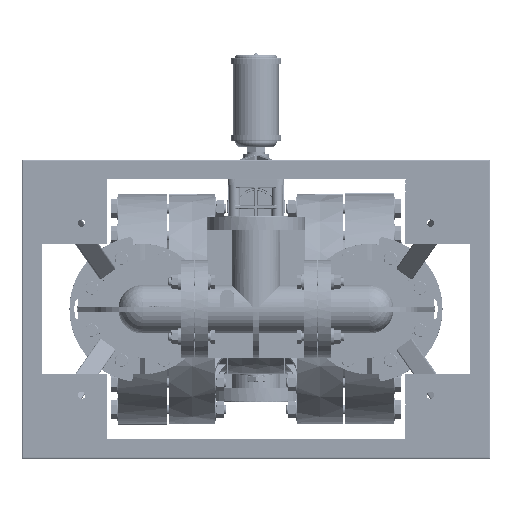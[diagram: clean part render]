
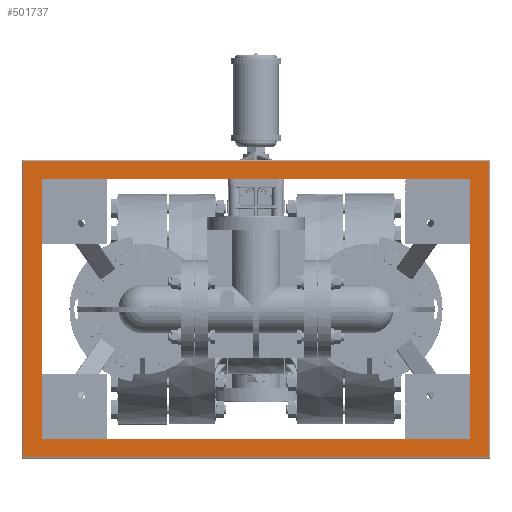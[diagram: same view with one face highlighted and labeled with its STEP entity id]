
A CAD part, front view. The second image highlights one B-rep face of the part: STEP entity #501737.
In plain terms, the highlighted planar face has unit normal (0, -1, 0).
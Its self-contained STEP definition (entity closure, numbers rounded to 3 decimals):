
#83604=CARTESIAN_POINT('',(17.89,-26.38,11.39));
#83632=DIRECTION('',(-1.,0.,0.));
#83633=VECTOR('',#83632,35.78);
#83634=CARTESIAN_POINT('',(17.89,-26.38,11.39));
#83635=LINE('',#83634,#83633);
#83636=CARTESIAN_POINT('',(-17.89,-26.38,11.39));
#83668=DIRECTION('',(0.,0.,1.));
#83669=VECTOR('',#83668,22.78);
#83670=CARTESIAN_POINT('',(17.89,-26.38,-11.39));
#83671=LINE('',#83670,#83669);
#83676=DIRECTION('',(1.,0.,0.));
#83677=VECTOR('',#83676,35.78);
#83678=CARTESIAN_POINT('',(-17.89,-26.38,-11.39));
#83679=LINE('',#83678,#83677);
#83740=DIRECTION('',(1.,0.,0.));
#83741=VECTOR('',#83740,33.);
#83742=CARTESIAN_POINT('',(-16.5,-26.38,-10.));
#83743=LINE('',#83742,#83741);
#83744=DIRECTION('',(0.,0.,1.));
#83745=VECTOR('',#83744,20.);
#83746=CARTESIAN_POINT('',(16.5,-26.38,-10.));
#83747=LINE('',#83746,#83745);
#83748=DIRECTION('',(-1.,0.,0.));
#83749=VECTOR('',#83748,33.);
#83750=CARTESIAN_POINT('',(16.5,-26.38,10.));
#83751=LINE('',#83750,#83749);
#83752=DIRECTION('',(0.,0.,-1.));
#83753=VECTOR('',#83752,20.);
#83754=CARTESIAN_POINT('',(-16.5,-26.38,10.));
#83755=LINE('',#83754,#83753);
#83760=DIRECTION('',(0.,0.,-1.));
#83761=VECTOR('',#83760,22.78);
#83762=CARTESIAN_POINT('',(-17.89,-26.38,11.39));
#83763=LINE('',#83762,#83761);
#377256=CARTESIAN_POINT('',(-17.89,-26.38,-11.39));
#377257=CARTESIAN_POINT('',(17.89,-26.38,-11.39));
#377258=VERTEX_POINT('',#377256);
#377259=VERTEX_POINT('',#377257);
#377264=VERTEX_POINT('',#83604);
#377266=VERTEX_POINT('',#83636);
#377272=CARTESIAN_POINT('',(-16.5,-26.38,-10.));
#377273=CARTESIAN_POINT('',(16.5,-26.38,-10.));
#377274=VERTEX_POINT('',#377272);
#377275=VERTEX_POINT('',#377273);
#377276=CARTESIAN_POINT('',(16.5,-26.38,10.));
#377277=CARTESIAN_POINT('',(-16.5,-26.38,10.));
#377278=VERTEX_POINT('',#377276);
#377279=VERTEX_POINT('',#377277);
#501715=CARTESIAN_POINT('',(0.,-26.38,0.));
#501716=DIRECTION('',(0.,1.,0.));
#501717=DIRECTION('',(1.,0.,0.));
#501718=AXIS2_PLACEMENT_3D('',#501715,#501716,#501717);
#501719=PLANE('',#501718);
#501720=ORIENTED_EDGE('',*,*,#501706,.F.);
#501722=ORIENTED_EDGE('',*,*,#501721,.F.);
#501723=ORIENTED_EDGE('',*,*,#501679,.F.);
#501724=ORIENTED_EDGE('',*,*,#501694,.F.);
#501725=EDGE_LOOP('',(#501720,#501722,#501723,#501724));
#501726=FACE_OUTER_BOUND('',#501725,.F.);
#501728=ORIENTED_EDGE('',*,*,#501727,.T.);
#501730=ORIENTED_EDGE('',*,*,#501729,.T.);
#501732=ORIENTED_EDGE('',*,*,#501731,.T.);
#501734=ORIENTED_EDGE('',*,*,#501733,.T.);
#501735=EDGE_LOOP('',(#501728,#501730,#501732,#501734));
#501736=FACE_BOUND('',#501735,.F.);
#501737=ADVANCED_FACE('',(#501726,#501736),#501719,.F.);
#501679=EDGE_CURVE('',#377264,#377266,#83635,.T.);
#501694=EDGE_CURVE('',#377259,#377264,#83671,.T.);
#501706=EDGE_CURVE('',#377258,#377259,#83679,.T.);
#501721=EDGE_CURVE('',#377266,#377258,#83763,.T.);
#501727=EDGE_CURVE('',#377274,#377275,#83743,.T.);
#501729=EDGE_CURVE('',#377275,#377278,#83747,.T.);
#501731=EDGE_CURVE('',#377278,#377279,#83751,.T.);
#501733=EDGE_CURVE('',#377279,#377274,#83755,.T.);
